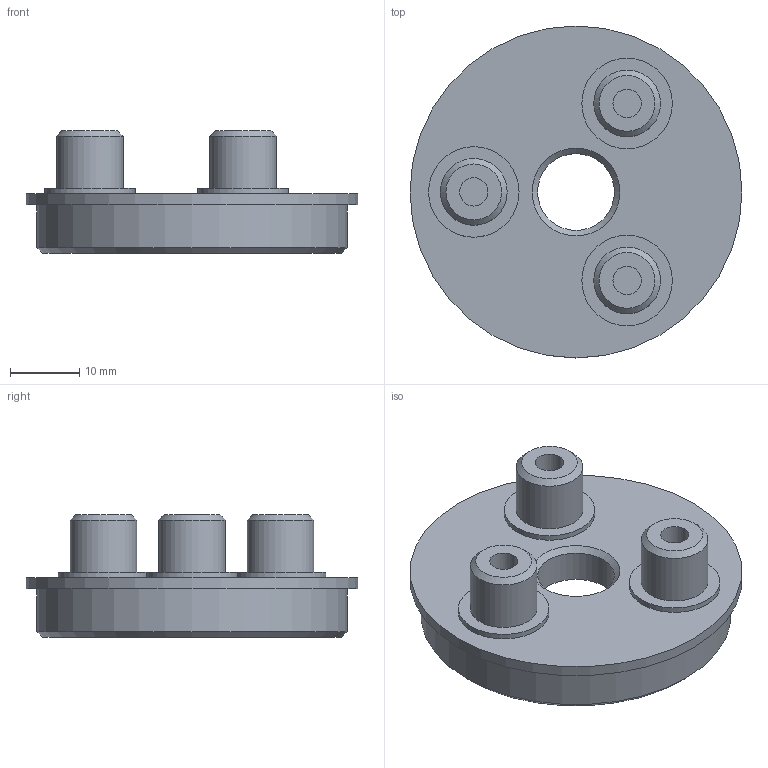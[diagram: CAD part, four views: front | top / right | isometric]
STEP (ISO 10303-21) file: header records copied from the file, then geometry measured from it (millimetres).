
FILE_DESCRIPTION(/* description */ ('STEP AP242 Edition 2','CAx-IF Rec.Pracs.---Representation and Presentation of Product Manufacturing Information (PMI)---4.0---2014-10-13','CAx-IF Rec.Pracs.---3D Tessellated Geometry---0.4---2014-09-14','2;1','CAx-IF Rec.Pracs.---User Defined Attributes---1.5---2016-08-15'),/* implementation_level */ '2;1');
FILE_NAME(/* name */ 'Main - Gear Carrier',/* time_stamp */ '2026-07-24T17:05:33Z',/* author */ (''),/* organization */ (''),/* preprocessor_version */ 'ST-DEVELOPER v20',/* originating_system */ 'ONSHAPE BY PTC INC, 1.218',/* authorisation */ ' ');
FILE_SCHEMA (('AP242_MANAGED_MODEL_BASED_3D_ENGINEERING_MIM_LF { 1 0 10303 442 3 1 4 }'));
Length unit declared in the file: metre
Products named in the file (1): Gear Carrier
Bounding box: 48.01 x 48.01 x 17.72 mm (x, y, z)
Volume: 13310.5 mm3; surface area: 6126.7 mm2
Topology: 1 solids, 1 shells, 36 faces, 60 edges, 39 vertices
Faces by surface type: plane 15, cylinder 15, cone 6
Full cylindrical faces by diameter (mm): 4.064 x2, 4.1 x3, 9.652 x3, 11.113 x1, 13.097 x3, 26.988 x1, 44.873 x1, 48.006 x1
Entity records: 750 total; most frequent: DIRECTION 146, CARTESIAN_POINT 109, AXIS2_PLACEMENT_3D 73, ORIENTED_EDGE 72, EDGE_LOOP 72, FACE_BOUND 72, EDGE_CURVE 36, VERTEX_POINT 36
